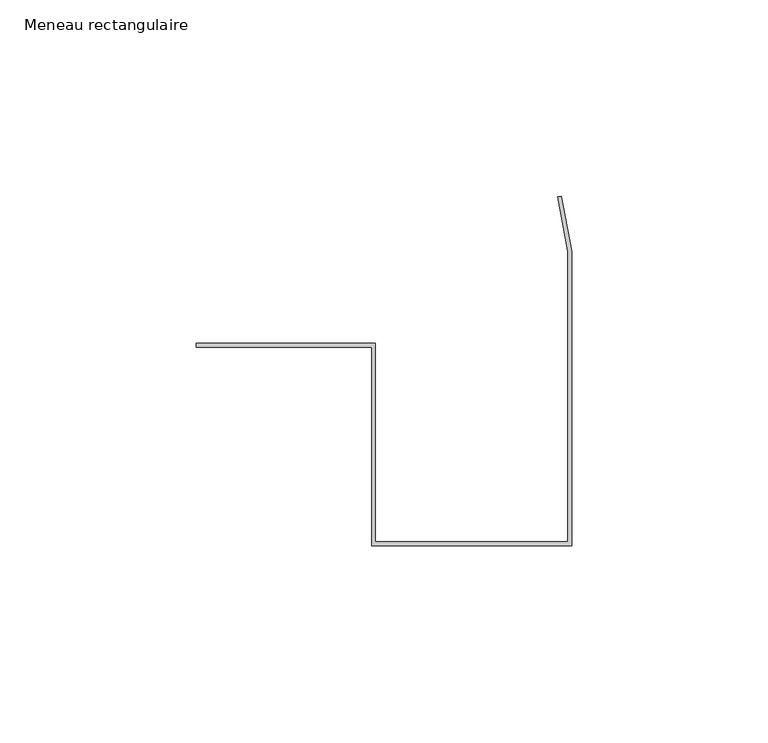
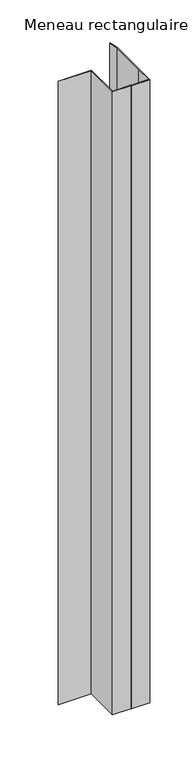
"""IFC4 building model written with IfcOpenShell, lengths in millimetres: member geometry, Meneau rectangulaire : Jonction contre mur Gauche H."""

from ifc_helpers import new_model, si_unit, frame, origin, place, context, project, spatial, polyline, outline, extrude, source, transform, mapped, element, save


def meneau_rectangulaire_ce6fec79(model_context):
    return source(origin(), model_context, "Body", "SweptSolid", [
        extrude(outline(polyline([(-1.0, 26.3950161), (-3.6043568, 40.2612876), (-2.6384309, 40.4427073), (0.0, 26.3950161), (0.0, -23.6049839), (0.0, -48.6049839), (-25.0, -48.6049839), (-26.0, -48.6049839), (-51.0, -48.6049839), (-51.0, 2.0), (-95.6686418, 2.0), (-95.6686418, 3.0), (-50.0, 3.0), (-50.0, -47.6049839), (-26.0, -47.6049839), (-25.0, -47.6049839), (-1.0, -47.6049839), (-1.0, -23.6049839), (-1.0, 26.3950161)])), frame((0.0, 0.0, -901.1451617), z_axis=(0.0, 0.0, 1.0), x_axis=(1.0, 0.0, 0.0)), (0.0, 0.0, 1.0), 901.1451617),
    ])


if __name__ == "__main__":
    model = new_model("IFC4")
    model_context = context("Model", 3, world=origin())
    ifc_project = project(units=[si_unit("LENGTHUNIT", "METRE", prefix="MILLI")], contexts=[model_context])
    site = spatial("IfcSite", under=ifc_project)
    building = spatial("IfcBuilding", under=site)
    placement = place(None, origin())
    meneau_rectangulaire_shape = meneau_rectangulaire_ce6fec79(model_context)
    element("IfcMember", 1, ObjectType="Meneau rectangulaire : Jonction contre mur Gauche H", at=placement, inside=building, context=model_context, shape_type="MappedRepresentation", body=[
        mapped(meneau_rectangulaire_shape, transform((0.0, 0.0, 0.0), x_axis=(1.0, 0.0, 0.0), y_axis=(0.0, 1.0, 0.0), z_axis=(0.0, 0.0, 1.0))),
    ])
    save(model, "model.ifc")
